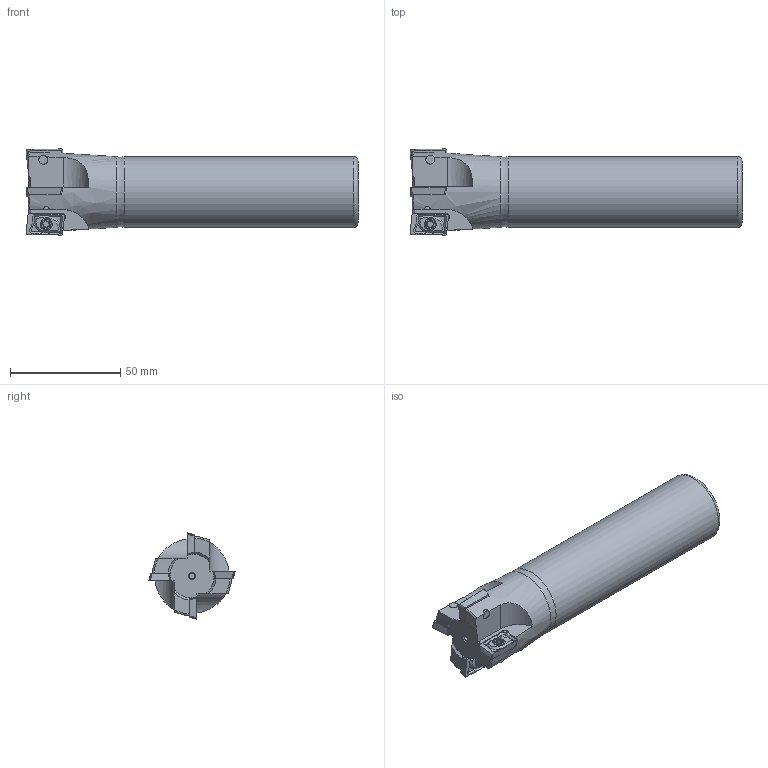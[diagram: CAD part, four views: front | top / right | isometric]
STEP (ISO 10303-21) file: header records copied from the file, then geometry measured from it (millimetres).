
FILE_DESCRIPTION(/* description */ (''),/* implementation_level */ '2;1');
FILE_NAME(/* name */ 'Z:\Проектный отдел\Арина\Токарные инструменты\400R C32-40-150-4T\400R C32-40-150-4T.stp',/* time_stamp */ '2023-07-25T16:35:42+03:00',/* author */ ('Рекина Арина'),/* organization */ (''),/* preprocessor_version */ 'ST-DEVELOPER v18',/* originating_system */ 'Autodesk Inventor 2020',/* authorisation */ '');
FILE_SCHEMA (('AUTOMOTIVE_DESIGN { 1 0 10303 214 3 1 1 }'));
Length unit declared in the file: millimetre
Products named in the file (4): 400R C32-40-150-4T; авампы; Напайка; болт
Assembly tree (9 placements, depth 2):
  400R C32-40-150-4T
    авампы
    Напайка  x4
    болт  x4
Bounding box: 150.42 x 39.02 x 39.02 mm (x, y, z)
Volume: 116583.3 mm3; surface area: 20365.5 mm2
Topology: 9 solids, 9 shells, 308 faces, 800 edges, 520 vertices
Faces by surface type: cylinder 95, plane 76, bspline 65, cone 62, torus 10
Full cylindrical faces by diameter (mm): 2.5 x2, 4 x8, 4.2 x4, 5.5 x8, 32 x1
Entity records: 5336 total; most frequent: CARTESIAN_POINT 2207, ORIENTED_EDGE 664, DIRECTION 596, EDGE_CURVE 332, AXIS2_PLACEMENT_3D 251, VERTEX_POINT 220, EDGE_LOOP 130, CIRCLE 120
